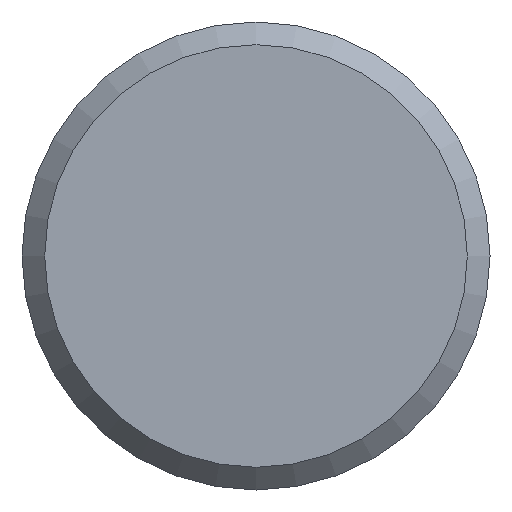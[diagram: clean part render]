
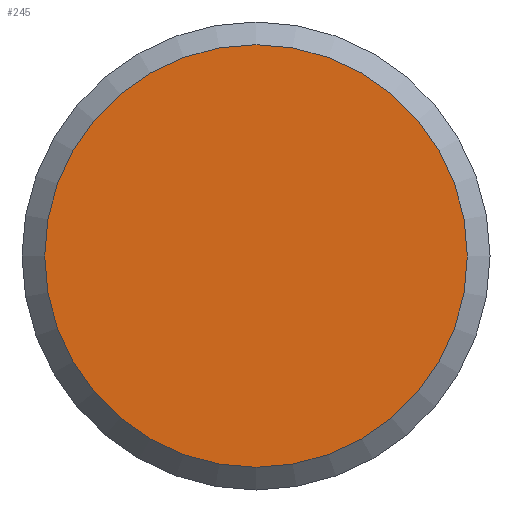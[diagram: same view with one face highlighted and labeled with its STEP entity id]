
A CAD part, front view. The second image highlights one B-rep face of the part: STEP entity #245.
In plain terms, the highlighted planar face has unit normal (0, -1, 0).
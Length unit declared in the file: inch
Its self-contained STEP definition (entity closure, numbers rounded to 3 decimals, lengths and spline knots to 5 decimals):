
#17=CIRCLE('',#271,0.37);
#35=FACE_OUTER_BOUND('',#48,.T.);
#48=EDGE_LOOP('',(#199));
#116=VERTEX_POINT('',#416);
#147=EDGE_CURVE('',#116,#116,#17,.T.);
#199=ORIENTED_EDGE('',*,*,#147,.F.);
#234=PLANE('',#277);
#245=ADVANCED_FACE('',(#35),#234,.T.);
#271=AXIS2_PLACEMENT_3D('',#417,#312,#313);
#277=AXIS2_PLACEMENT_3D('',#429,#326,#327);
#312=DIRECTION('center_axis',(0.,1.,0.));
#313=DIRECTION('ref_axis',(0.,0.,1.));
#326=DIRECTION('center_axis',(0.,-1.,0.));
#327=DIRECTION('ref_axis',(0.,0.,-1.));
#416=CARTESIAN_POINT('',(0.,0.,-0.37));
#417=CARTESIAN_POINT('Origin',(0.,0.,0.));
#429=CARTESIAN_POINT('Origin',(0.,0.,0.));
